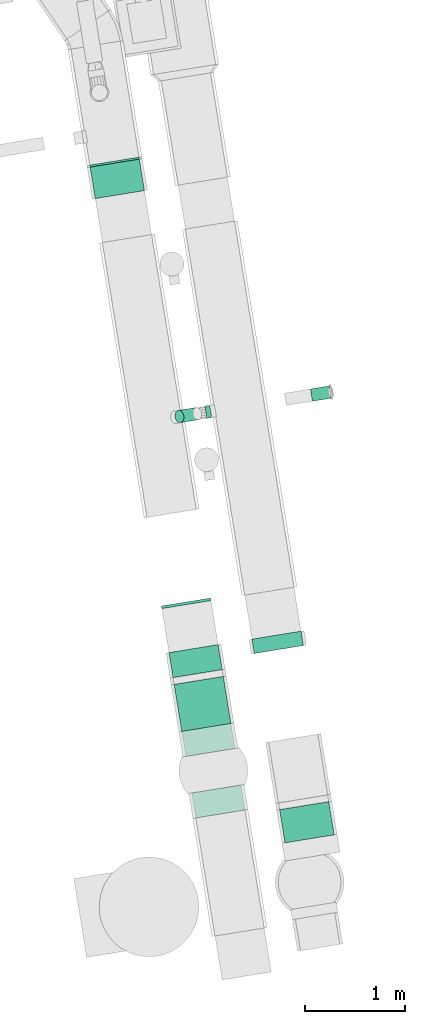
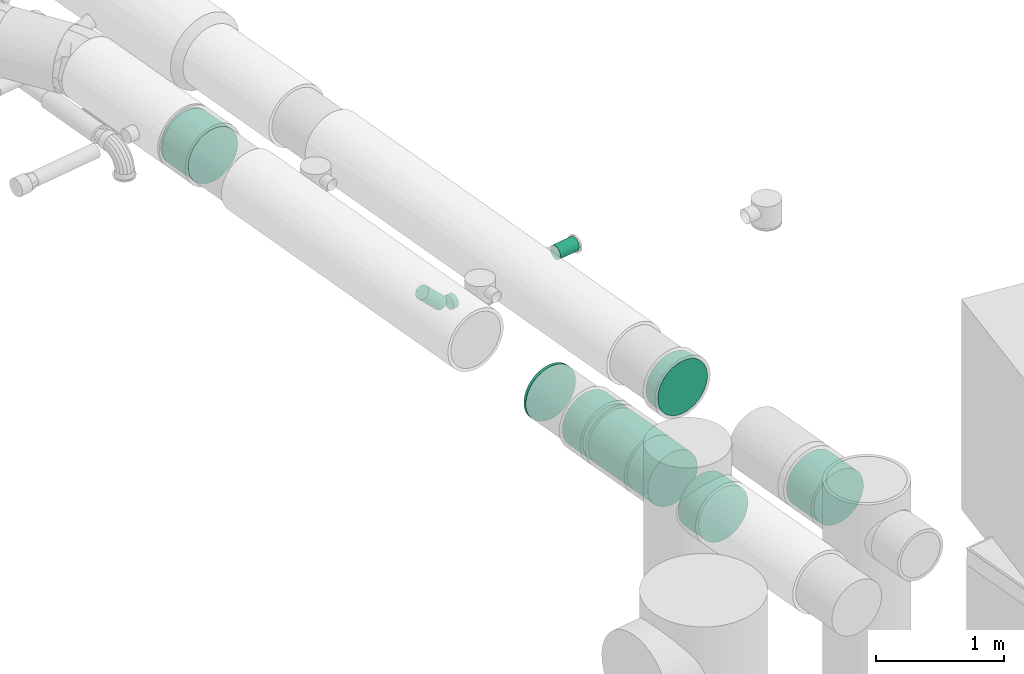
# One storey, part 15 of 39: 9 flow segments, 3 flow fittings.
"""IFC2X3 building model written with IfcOpenShell, lengths in millimetres."""

import ifcopenshell
import ifcopenshell.guid

model = None  # the IFC model being written
_history = None  # IfcOwnerHistory: only IFC2X3 demands one
_inside = {}  # id of a spatial element -> (the spatial element, [elements in it])
_under = {}  # id of a project, library or spatial element -> (it, [spatial elements below it])
_declared = {}  # id of a project -> (the project, [libraries it declares])
_typed = {}  # id of a type object -> (the type object, [elements of that type])
_made_of = {}  # id of a material, layer set ... -> (it, [elements and type objects made of it])


def new_model(schema):
    """Start an empty IFC model of exactly this schema.

    Asked for "IFC4X3", IfcOpenShell would pick the latest addendum, in which some entities
    have other attributes; the version numbers below select the first issue.
    IFC2X3 requires an IfcOwnerHistory on every rooted entity: one is made here for all.
    """
    global model, _history
    if schema == "IFC4X3":
        model = ifcopenshell.file(schema_version=(4, 3, 0, 0))
    else:
        model = ifcopenshell.file(schema=schema)
    _inside.clear()
    _under.clear()
    _declared.clear()
    _typed.clear()
    _made_of.clear()
    _history = None
    if model.schema == "IFC2X3":
        org = make("IfcOrganization", Name="unknown")
        user = make(
            "IfcPersonAndOrganization",
            ThePerson=make("IfcPerson", FamilyName="unknown"),
            TheOrganization=org,
        )
        app = make(
            "IfcApplication",
            ApplicationDeveloper=org,
            Version="unknown",
            ApplicationFullName="unknown",
            ApplicationIdentifier="unknown",
        )
        _history = make(
            "IfcOwnerHistory",
            OwningUser=user,
            OwningApplication=app,
            ChangeAction="ADDED",
            CreationDate=0,
        )
    return model


def make(cls, **values):
    """One entity of the class cls with the attributes given. An attribute that is None is left unset."""
    return model.create_entity(
        cls, **{name: value for name, value in values.items() if value is not None}
    )


def entity(cls, *values):
    """Any entity or typed value of the class cls, its attributes in the order of the schema. None: left unset."""
    e = model.create_entity(cls)
    for i, value in enumerate(values):
        if value is not None:
            e[i] = value
    return e


def rooted(cls, **values):
    """An entity with a GlobalId (a new one), such as an element, a storey or a relation."""
    return make(cls, GlobalId=ifcopenshell.guid.new(), OwnerHistory=_history, **values)


def si_unit(unit_type, name, prefix=None):
    """IfcSIUnit, for example si_unit("LENGTHUNIT", "METRE", prefix="MILLI")."""
    return make("IfcSIUnit", UnitType=unit_type, Prefix=prefix, Name=name)


def converted_unit(unit_type, name, factor, base, dimensions=None, offset=None):
    """IfcConversionBasedUnit, such as the inch: factor (a typed value) times the base unit."""
    return make(
        "IfcConversionBasedUnit"
        if offset is None
        else "IfcConversionBasedUnitWithOffset",
        ConversionOffset=offset,
        Dimensions=None
        if dimensions is None
        else entity("IfcDimensionalExponents", *dimensions),
        UnitType=unit_type,
        Name=name,
        ConversionFactor=make(
            "IfcMeasureWithUnit", ValueComponent=factor, UnitComponent=base
        ),
    )


def derived_unit(unit_type, elements):
    """IfcDerivedUnit: a product of units, each with its exponent."""
    return make(
        "IfcDerivedUnit",
        Elements=[
            make("IfcDerivedUnitElement", Unit=unit, Exponent=power)
            for unit, power in elements
        ],
        UnitType=unit_type,
    )


def assignment(units):
    """IfcUnitAssignment: the units of a project."""
    return None if units is None else make("IfcUnitAssignment", Units=units)


def point(xyz):
    """IfcCartesianPoint."""
    return None if xyz is None else make("IfcCartesianPoint", Coordinates=xyz)


def direction(xyz):
    """IfcDirection."""
    return None if xyz is None else make("IfcDirection", DirectionRatios=xyz)


def frame(location, z_axis=None, x_axis=None):
    """IfcAxis2Placement3D, a coordinate frame: its origin and axes. An axis left out is left unset."""
    return make(
        "IfcAxis2Placement3D",
        Location=point(location),
        Axis=direction(z_axis),
        RefDirection=direction(x_axis),
    )


def frame_2d(location, x_axis=None):
    """IfcAxis2Placement2D, a coordinate frame in the plane: its origin and x axis."""
    return make(
        "IfcAxis2Placement2D", Location=point(location), RefDirection=direction(x_axis)
    )


def origin():
    """The frame at (0, 0, 0) with its axes left unset."""
    return frame((0.0, 0.0, 0.0))


def origin_with_axes():
    """The frame at (0, 0, 0) with the z axis (0, 0, 1) and the x axis (1, 0, 0) written out."""
    return frame((0.0, 0.0, 0.0), z_axis=(0.0, 0.0, 1.0), x_axis=(1.0, 0.0, 0.0))


def origin_2d_with_axis():
    """The frame at (0, 0) in the plane with the x axis (1, 0) written out."""
    return frame_2d((0.0, 0.0), x_axis=(1.0, 0.0))


def place(relative_to, where):
    """IfcLocalPlacement: puts the frame where relative to a parent placement (None: the world)."""
    return make(
        "IfcLocalPlacement", PlacementRelTo=relative_to, RelativePlacement=where
    )


def context(
    kind, dimensions, precision=None, world=None, true_north=None, identifier=None
):
    """IfcGeometricRepresentationContext, for example the 3D "Model" context."""
    return make(
        "IfcGeometricRepresentationContext",
        ContextIdentifier=identifier,
        ContextType=kind,
        CoordinateSpaceDimension=dimensions,
        Precision=precision,
        WorldCoordinateSystem=world,
        TrueNorth=true_north,
    )


def subcontext(parent, identifier, kind, view, scale=None):
    """IfcGeometricRepresentationSubContext, for example "Body" below "Model"."""
    return make(
        "IfcGeometricRepresentationSubContext",
        ContextIdentifier=identifier,
        ContextType=kind,
        ParentContext=parent,
        TargetScale=scale,
        TargetView=view,
    )


def project(units=None, contexts=None):
    """IfcProject with its units and contexts."""
    return rooted(
        "IfcProject",
        Name="project",
        RepresentationContexts=contexts,
        UnitsInContext=assignment(units),
    )


def spatial(cls, under=None, at=None, **own):
    """A site, building, storey or space (cls), placed at a placement, below another one or the project."""
    s = rooted(cls, ObjectPlacement=at, **own)
    if under is not None:
        _under.setdefault(under.id(), (under, []))[1].append(s)
    return s


def profile(cls, at=None, kind="AREA", **sizes):
    """A parametric profile (cls). Its sizes go by their IFC names, for example OverallWidth=200.0."""
    return make(cls, ProfileType=kind, Position=at, **sizes)


def circle(**sizes):
    """IfcCircleProfileDef."""
    return profile("IfcCircleProfileDef", **sizes)


def extrude(swept, where, along, depth):
    """IfcExtrudedAreaSolid: the profile swept, set in the frame where, extruded along a direction by depth."""
    return make(
        "IfcExtrudedAreaSolid",
        SweptArea=swept,
        Position=where,
        ExtrudedDirection=direction(along),
        Depth=depth,
    )


def faces_of(points, faces, orient=None, outer=None):
    """IfcFace entities. A face is a list of loops; a loop is a list of indices into points, from 0.

    orient and outer hold one flag for each loop. By default every Orientation is true, the
    first loop of a face is its IfcFaceOuterBound and the others are IfcFaceBound.
    """
    made = []
    for i, loops in enumerate(faces):
        bounds = []
        for j, loop in enumerate(loops):
            is_outer = j == 0 if outer is None else outer[i][j]
            bounds.append(
                make(
                    "IfcFaceOuterBound" if is_outer else "IfcFaceBound",
                    Bound=make("IfcPolyLoop", Polygon=[points[k] for k in loop]),
                    Orientation=True if orient is None else orient[i][j],
                )
            )
        made.append(make("IfcFace", Bounds=bounds))
    return made


def faceted_brep(points, faces, orient=None, outer=None, voids=None):
    """IfcFacetedBrep: a solid bounded by flat faces; with voids (closed shells), ...WithVoids."""
    shared = [point(p) for p in points]
    hull = make("IfcClosedShell", CfsFaces=faces_of(shared, faces, orient, outer))
    if voids is None:
        return make("IfcFacetedBrep", Outer=hull)
    return make(
        "IfcFacetedBrepWithVoids",
        Outer=hull,
        Voids=[
            make(cls, CfsFaces=faces_of(shared, fs, o, b)) for cls, fs, o, b in voids
        ],
    )


def shape(context_of_items, identifier, shape_type, items):
    """IfcShapeRepresentation: the items that make up one representation, for example the "Body"."""
    return make(
        "IfcShapeRepresentation",
        ContextOfItems=context_of_items,
        RepresentationIdentifier=identifier,
        RepresentationType=shape_type,
        Items=items,
    )


def source(mapping_origin, context_of_items, identifier, shape_type, items):
    """IfcRepresentationMap: a shape defined once, which mapped items show again and again."""
    return make(
        "IfcRepresentationMap",
        MappingOrigin=mapping_origin,
        MappedRepresentation=shape(context_of_items, identifier, shape_type, items),
    )


def transform(
    local_origin,
    x_axis=None,
    y_axis=None,
    z_axis=None,
    scale=None,
    scale2=None,
    scale3=None,
    uniform=True,
):
    """IfcCartesianTransformationOperator3D, or its non-uniform kind. x_axis, y_axis, z_axis: its Axis1, 2, 3."""
    if uniform:
        return make(
            "IfcCartesianTransformationOperator3D",
            Axis1=direction(x_axis),
            Axis2=direction(y_axis),
            LocalOrigin=point(local_origin),
            Scale=scale,
            Axis3=direction(z_axis),
        )
    return make(
        "IfcCartesianTransformationOperator3DnonUniform",
        Axis1=direction(x_axis),
        Axis2=direction(y_axis),
        LocalOrigin=point(local_origin),
        Scale=scale,
        Axis3=direction(z_axis),
        Scale2=scale2,
        Scale3=scale3,
    )


def mapped(mapping_source, mapping_target):
    """IfcMappedItem: shows the shape of a source again, moved by a transform."""
    return make(
        "IfcMappedItem", MappingSource=mapping_source, MappingTarget=mapping_target
    )


def material(Name=None, Category=None):
    """IfcMaterial."""
    return make("IfcMaterial", Name=Name, Category=Category)


def made_of(thing, what):
    """Note that an element or type object is made of a material, layer set ...; save() writes the relation."""
    if what is not None:
        _made_of.setdefault(what.id(), (what, []))[1].append(thing)
    return thing


def type_object(cls, material=None, **own):
    """A type object (cls), such as IfcWallType, which elements share."""
    return made_of(rooted(cls, **own), material)


def element(
    cls,
    number,
    at=None,
    inside=None,
    cuts=None,
    type_object=None,
    material=None,
    context=None,
    identifier="Body",
    shape_type=None,
    held_by="IfcProductDefinitionShape",
    body=None,
    shapes=None,
    **own,
):
    """One element of the class cls, such as IfcWall. Its Tag is "e" and its number.

    at: its placement. inside: the storey or other place that contains it. cuts: it is an
    opening in that element (IfcRelVoidsElement). A single representation is given by context,
    identifier, shape_type and body (its items); several are given by shapes. held_by: the class
    of the entity that holds the representations. save() writes the other relations.
    """
    e = rooted(cls, Tag="e%d" % number, ObjectPlacement=at, **own)
    if body is not None:
        shapes = [shape(context, identifier, shape_type, body)]
    if shapes is not None:
        e.Representation = make(held_by, Representations=shapes)
    if inside is not None:
        _inside.setdefault(inside.id(), (inside, []))[1].append(e)
    if cuts is not None:
        rooted(
            "IfcRelVoidsElement", RelatingBuildingElement=cuts, RelatedOpeningElement=e
        )
    if type_object is not None:
        _typed.setdefault(type_object.id(), (type_object, []))[1].append(e)
    return made_of(e, material)


def aggregate(whole, parts):
    """IfcRelAggregates: a whole, such as a stair, and the parts it consists of."""
    return rooted("IfcRelAggregates", RelatingObject=whole, RelatedObjects=parts)


def save(model, path):
    """Write the relations noted so far, then the file.

    IfcRelAggregates (storeys below a building ...), IfcRelContainedInSpatialStructure (elements
    in a storey), IfcRelDefinesByType, IfcRelAssociatesMaterial and IfcRelDeclares: one each for
    every whole, place, type object, material and project.
    """
    for whole, parts in _under.values():
        aggregate(whole, parts)
    for where, things in _inside.values():
        rooted(
            "IfcRelContainedInSpatialStructure",
            RelatedElements=things,
            RelatingStructure=where,
        )
    for kind, things in _typed.values():
        rooted("IfcRelDefinesByType", RelatedObjects=things, RelatingType=kind)
    for what, things in _made_of.values():
        rooted("IfcRelAssociatesMaterial", RelatedObjects=things, RelatingMaterial=what)
    for by, libraries in _declared.values():
        rooted("IfcRelDeclares", RelatingContext=by, RelatedDefinitions=libraries)
    model.write(path)


model = new_model("IFC2X3")

# Units and contexts
plan_context = context("Plan", 3, precision=1e-05, world=origin_with_axes())
model_context = context("Model", 3, precision=0.01, world=origin(), true_north=direction((6.12323399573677e-17, 1.0)))
body_context = subcontext(model_context, "Body", "Model", "MODEL_VIEW")
ifc_project = project(units=[converted_unit("PLANEANGLEUNIT", "DEGREE", entity("IfcPositiveLengthMeasure", 0.0174532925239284), si_unit("PLANEANGLEUNIT", "RADIAN"), dimensions=[0, 0, 0, 0, 0, 0, 0]), si_unit("AREAUNIT", "SQUARE_METRE"), si_unit("LENGTHUNIT", "METRE", prefix="MILLI"), si_unit("MASSUNIT", "GRAM", prefix="KILO"), si_unit("POWERUNIT", "WATT"), si_unit("PRESSUREUNIT", "PASCAL", prefix="KILO"), si_unit("FORCEUNIT", "NEWTON", prefix="KILO"), si_unit("ELECTRICVOLTAGEUNIT", "VOLT"), si_unit("ELECTRICCURRENTUNIT", "AMPERE"), si_unit("THERMODYNAMICTEMPERATUREUNIT", "DEGREE_CELSIUS"), si_unit("TIMEUNIT", "SECOND"), si_unit("VOLUMEUNIT", "CUBIC_METRE"), derived_unit("LINEARVELOCITYUNIT", [(si_unit("LENGTHUNIT", "METRE"), 1), (si_unit("TIMEUNIT", "SECOND"), -1)]), derived_unit("VOLUMETRICFLOWRATEUNIT", [(si_unit("VOLUMEUNIT", "CUBIC_METRE"), 1), (si_unit("TIMEUNIT", "SECOND"), -1)]), derived_unit("THERMALTRANSMITTANCEUNIT", [(si_unit("POWERUNIT", "WATT"), 1), (si_unit("THERMODYNAMICTEMPERATUREUNIT", "KELVIN"), -1), (si_unit("AREAUNIT", "SQUARE_METRE"), -1)]), derived_unit("SOUNDPRESSUREUNIT", [(si_unit("PRESSUREUNIT", "PASCAL"), 1)])], contexts=[model_context, plan_context])

# Site, building, storey
site_placement = place(None, frame((-0.00071070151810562, 0.00438415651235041, 0.0), z_axis=(0.0, 0.0, 1.0), x_axis=(-0.160236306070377, 0.987078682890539, 0.0)))
site = spatial("IfcSite", under=ifc_project, at=site_placement, Name="Default", CompositionType="ELEMENT")
building_placement = place(site_placement, origin_with_axes())
building = spatial("IfcBuilding", under=site, at=building_placement, CompositionType="ELEMENT")
storey_placement = place(building_placement, frame((0.0, 0.0, 58999.9999999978), z_axis=(0.0, 0.0, 1.0), x_axis=(1.0, 0.0, 0.0)))
storey = spatial("IfcBuildingStorey", under=building, at=storey_placement, Name="Nivå F", CompositionType="ELEMENT", Elevation=58999.9999999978)

# Flow fittings
ifc_material = material(Name="<Unnamed>")
duct_fitting_type_1 = type_object("IfcDuctFittingType", Name="magicirc_tapoutlet_1:magicirc_tapoutlet_001", PredefinedType="NOTDEFINED", material=ifc_material)
shared_shape_1 = source(origin(), body_context, "Body", "Brep", [
    faceted_brep([(-129.458321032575, 0.0, -250.0), (-129.458321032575, -55.6302334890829, -243.731978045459), (-129.458321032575, -108.470934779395, -225.242216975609), (-129.458321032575, -155.87245046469, -195.457870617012), (-129.458321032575, -195.457870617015, -155.872450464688), (-129.458321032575, -225.242216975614, -108.470934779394), (-129.458321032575, -243.731978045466, -55.6302334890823), (-129.458321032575, -250.0, 0.0), (-129.458321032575, -243.731978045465, 55.6302334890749), (-129.458321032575, -225.242216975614, 108.470934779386), (-129.458321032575, -195.457870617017, 155.87245046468), (-129.458321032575, -155.872450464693, 195.457870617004), (-129.458321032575, -108.470934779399, 225.242216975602), (-129.458321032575, -55.6302334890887, 243.731978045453), (-129.458321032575, 0.0, 250.0), (-129.458321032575, 55.6302334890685, 243.731978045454), (-129.458321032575, 108.470934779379, 225.242216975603), (-129.458321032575, 155.872450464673, 195.457870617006), (-129.458321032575, 195.457870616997, 155.872450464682), (-129.458321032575, 225.242216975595, 108.470934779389), (-129.458321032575, 243.731978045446, 55.6302334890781), (-129.458321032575, 250.0, 0.0), (-129.458321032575, 243.731978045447, -55.6302334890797), (-129.458321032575, 225.242216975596, -108.47093477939), (-129.458321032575, 195.457870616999, -155.872450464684), (-129.458321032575, 155.872450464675, -195.457870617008), (-129.458321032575, 108.470934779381, -225.242216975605), (-129.458321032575, 55.6302334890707, -243.731978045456), (0.0, 0.0, 250.0), (125.0, 0.0, 250.0), (125.0, 55.6302334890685, 243.731978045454), (0.0, 55.6302334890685, 243.731978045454), (125.0, 108.470934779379, 225.242216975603), (0.0, 108.470934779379, 225.242216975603), (125.0, 155.872450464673, 195.457870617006), (0.0, 155.872450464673, 195.457870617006), (125.0, 195.457870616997, 155.872450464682), (0.0, 195.457870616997, 155.872450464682), (125.0, 225.242216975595, 108.470934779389), (0.0, 225.242216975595, 108.470934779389), (125.0, 243.731978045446, 55.6302334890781), (0.0, 243.731978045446, 55.6302334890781), (125.0, 250.0, 0.0), (0.0, 250.0, 0.0), (125.0, 243.731978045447, -55.6302334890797), (0.0, 243.731978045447, -55.6302334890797), (0.0, 225.242216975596, -108.47093477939), (125.0, 225.242216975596, -108.47093477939), (125.0, 195.457870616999, -155.872450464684), (0.0, 195.457870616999, -155.872450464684), (125.0, 155.872450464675, -195.457870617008), (0.0, 155.872450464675, -195.457870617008), (125.0, 108.470934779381, -225.242216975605), (0.0, 108.470934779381, -225.242216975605), (125.0, 55.6302334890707, -243.731978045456), (0.0, 55.6302334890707, -243.731978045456), (125.0, 0.0, -250.0), (0.0, 0.0, -250.0), (125.0, -55.6302334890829, -243.731978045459), (0.0, -55.6302334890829, -243.731978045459), (125.0, -108.470934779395, -225.242216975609), (0.0, -108.470934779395, -225.242216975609), (125.0, -155.87245046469, -195.457870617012), (0.0, -155.87245046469, -195.457870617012), (125.0, -195.457870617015, -155.872450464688), (0.0, -195.457870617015, -155.872450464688), (125.0, -225.242216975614, -108.470934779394), (0.0, -225.242216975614, -108.470934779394), (125.0, -243.731978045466, -55.6302334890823), (0.0, -243.731978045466, -55.6302334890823), (125.0, -250.0, 0.0), (0.0, -250.0, 0.0), (125.0, -243.731978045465, 55.6302334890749), (0.0, -243.731978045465, 55.6302334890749), (125.0, -225.242216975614, 108.470934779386), (0.0, -225.242216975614, 108.470934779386), (125.0, -195.457870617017, 155.87245046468), (0.0, -195.457870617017, 155.87245046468), (125.0, -155.872450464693, 195.457870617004), (0.0, -155.872450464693, 195.457870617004), (125.0, -108.470934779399, 225.242216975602), (0.0, -108.470934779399, 225.242216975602), (125.0, -55.6302334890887, 243.731978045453), (0.0, -55.6302334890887, 243.731978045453)], [[[0, 1, 2, 3, 4, 5, 6, 7, 8, 9, 10, 11, 12, 13, 14, 15, 16, 17, 18, 19, 20, 21, 22, 23, 24, 25, 26, 27]], [[15, 14, 28, 29, 30, 31]], [[16, 15, 31, 30, 32, 33]], [[17, 16, 33, 32, 34, 35]], [[35, 34, 36, 37, 18, 17]], [[19, 18, 37, 36, 38, 39]], [[20, 19, 39, 38, 40, 41]], [[21, 20, 41, 40, 42, 43]], [[21, 43, 42, 44, 45, 22]], [[46, 47, 48, 49, 24, 23]], [[22, 45, 44, 47, 46, 23]], [[49, 48, 50, 51, 25, 24]], [[26, 25, 51, 50, 52, 53]], [[27, 26, 53, 52, 54, 55]], [[0, 27, 55, 54, 56, 57]], [[57, 56, 58, 59, 1, 0]], [[59, 58, 60, 61, 2, 1]], [[3, 2, 61, 60, 62, 63]], [[63, 62, 64, 65, 4, 3]], [[5, 4, 65, 64, 66, 67]], [[6, 5, 67, 66, 68, 69]], [[7, 6, 69, 68, 70, 71]], [[8, 7, 71, 70, 72, 73]], [[9, 8, 73, 72, 74, 75]], [[10, 9, 75, 74, 76, 77]], [[77, 76, 78, 79, 11, 10]], [[12, 11, 79, 78, 80, 81]], [[13, 12, 81, 80, 82, 83]], [[14, 13, 83, 82, 29, 28]], [[42, 40, 38, 36, 34, 32, 30, 29, 82, 80, 78, 76, 74, 72, 70, 68, 66, 64, 62, 60, 58, 56, 54, 52, 50, 48, 47, 44]]]),
    faceted_brep([(125.0, 0.0, -250.0), (125.0, 55.6302334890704, -243.731978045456), (125.0, 108.470934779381, -225.242216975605), (125.0, 155.872450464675, -195.457870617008), (125.0, 195.457870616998, -155.872450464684), (125.0, 225.242216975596, -108.47093477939), (125.0, 243.731978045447, -55.6302334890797), (125.0, 250.0, 0.0), (125.0, 243.731978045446, 55.6302334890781), (125.0, 225.242216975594, 108.470934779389), (125.0, 195.457870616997, 155.872450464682), (125.0, 155.872450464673, 195.457870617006), (125.0, 108.470934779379, 225.242216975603), (125.0, 55.6302334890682, 243.731978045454), (125.0, 0.0, 250.0), (125.0, -55.630233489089, 243.731978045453), (125.0, -108.4709347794, 225.242216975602), (125.0, -155.872450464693, 195.457870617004), (125.0, -195.457870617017, 155.87245046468), (125.0, -225.242216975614, 108.470934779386), (125.0, -243.731978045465, 55.6302334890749), (125.0, -250.0, 0.0), (125.0, -243.731978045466, -55.6302334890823), (125.0, -225.242216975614, -108.470934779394), (125.0, -195.457870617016, -155.872450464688), (125.0, -155.872450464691, -195.457870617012), (125.0, -108.470934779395, -225.242216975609), (125.0, -55.6302334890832, -243.731978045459), (0.0, 55.6302334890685, 243.731978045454), (-129.458321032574, 55.6302334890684, 243.731978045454), (-129.458321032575, 0.0, 250.0), (0.0, 0.0, 250.0), (0.0, 108.470934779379, 225.242216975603), (-129.458321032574, 108.470934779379, 225.242216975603), (0.0, 155.872450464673, 195.457870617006), (-129.458321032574, 155.872450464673, 195.457870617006), (0.0, 195.457870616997, 155.872450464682), (-129.458321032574, 195.457870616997, 155.872450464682), (0.0, 225.242216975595, 108.470934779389), (-129.458321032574, 225.242216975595, 108.470934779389), (0.0, 243.731978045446, 55.6302334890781), (-129.458321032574, 243.731978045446, 55.6302334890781), (0.0, 250.0, 0.0), (-129.458321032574, 250.0, 0.0), (0.0, 243.731978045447, -55.6302334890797), (-129.458321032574, 243.731978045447, -55.6302334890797), (0.0, 195.457870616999, -155.872450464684), (-129.458321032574, 195.457870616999, -155.872450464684), (-129.458321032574, 225.242216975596, -108.47093477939), (0.0, 225.242216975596, -108.47093477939), (0.0, 155.872450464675, -195.457870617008), (-129.458321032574, 155.872450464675, -195.457870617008), (0.0, 108.470934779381, -225.242216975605), (-129.458321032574, 108.470934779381, -225.242216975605), (0.0, 55.6302334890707, -243.731978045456), (-129.458321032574, 55.6302334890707, -243.731978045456), (0.0, 0.0, -250.0), (-129.458321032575, 0.0, -250.0), (0.0, -55.6302334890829, -243.731978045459), (-129.458321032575, -55.630233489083, -243.731978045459), (0.0, -108.470934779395, -225.242216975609), (-129.458321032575, -108.470934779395, -225.242216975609), (0.0, -155.87245046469, -195.457870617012), (-129.458321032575, -155.87245046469, -195.457870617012), (0.0, -195.457870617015, -155.872450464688), (-129.458321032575, -195.457870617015, -155.872450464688), (0.0, -225.242216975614, -108.470934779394), (-129.458321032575, -225.242216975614, -108.470934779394), (0.0, -243.731978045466, -55.6302334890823), (-129.458321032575, -243.731978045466, -55.6302334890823), (0.0, -250.0, 0.0), (-129.458321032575, -250.0, 0.0), (0.0, -243.731978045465, 55.630233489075), (-129.458321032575, -243.731978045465, 55.6302334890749), (0.0, -225.242216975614, 108.470934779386), (-129.458321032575, -225.242216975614, 108.470934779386), (0.0, -195.457870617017, 155.87245046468), (-129.458321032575, -195.457870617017, 155.87245046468), (0.0, -155.872450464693, 195.457870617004), (-129.458321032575, -155.872450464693, 195.457870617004), (0.0, -108.4709347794, 225.242216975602), (-129.458321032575, -108.4709347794, 225.242216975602), (0.0, -55.6302334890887, 243.731978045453), (-129.458321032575, -55.6302334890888, 243.731978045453)], [[[0, 1, 2, 3, 4, 5, 6, 7, 8, 9, 10, 11, 12, 13, 14, 15, 16, 17, 18, 19, 20, 21, 22, 23, 24, 25, 26, 27]], [[28, 29, 30, 31, 14, 13]], [[32, 33, 29, 28, 13, 12]], [[34, 35, 33, 32, 12, 11]], [[11, 10, 36, 37, 35, 34]], [[38, 39, 37, 36, 10, 9]], [[40, 41, 39, 38, 9, 8]], [[42, 43, 41, 40, 8, 7]], [[42, 7, 6, 44, 45, 43]], [[5, 4, 46, 47, 48, 49]], [[44, 6, 5, 49, 48, 45]], [[4, 3, 50, 51, 47, 46]], [[52, 53, 51, 50, 3, 2]], [[54, 55, 53, 52, 2, 1]], [[56, 57, 55, 54, 1, 0]], [[0, 27, 58, 59, 57, 56]], [[27, 26, 60, 61, 59, 58]], [[62, 63, 61, 60, 26, 25]], [[25, 24, 64, 65, 63, 62]], [[66, 67, 65, 64, 24, 23]], [[68, 69, 67, 66, 23, 22]], [[70, 71, 69, 68, 22, 21]], [[72, 73, 71, 70, 21, 20]], [[74, 75, 73, 72, 20, 19]], [[76, 77, 75, 74, 19, 18]], [[18, 17, 78, 79, 77, 76]], [[80, 81, 79, 78, 17, 16]], [[82, 83, 81, 80, 16, 15]], [[31, 30, 83, 82, 15, 14]], [[57, 59, 61, 63, 65, 67, 69, 71, 73, 75, 77, 79, 81, 83, 30, 29, 33, 35, 37, 39, 41, 43, 45, 48, 47, 51, 53, 55]]]),
    faceted_brep([(-129.458321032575, 0.0, -250.0), (-129.458321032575, -55.6302334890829, -243.731978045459), (-129.458321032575, -108.470934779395, -225.242216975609), (-129.458321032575, -155.87245046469, -195.457870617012), (-129.458321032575, -195.457870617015, -155.872450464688), (-129.458321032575, -225.242216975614, -108.470934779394), (-129.458321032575, -243.731978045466, -55.6302334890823), (-129.458321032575, -250.0, 0.0), (-129.458321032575, -243.731978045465, 55.6302334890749), (-129.458321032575, -225.242216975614, 108.470934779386), (-129.458321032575, -195.457870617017, 155.87245046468), (-129.458321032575, -155.872450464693, 195.457870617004), (-129.458321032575, -108.470934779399, 225.242216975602), (-129.458321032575, -55.6302334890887, 243.731978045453), (-129.458321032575, 0.0, 250.0), (-129.458321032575, 55.6302334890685, 243.731978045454), (-129.458321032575, 108.470934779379, 225.242216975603), (-129.458321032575, 155.872450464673, 195.457870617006), (-129.458321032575, 195.457870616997, 155.872450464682), (-129.458321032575, 225.242216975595, 108.470934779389), (-129.458321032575, 243.731978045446, 55.6302334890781), (-129.458321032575, 250.0, 0.0), (-129.458321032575, 243.731978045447, -55.6302334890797), (-129.458321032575, 225.242216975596, -108.47093477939), (-129.458321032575, 195.457870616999, -155.872450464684), (-129.458321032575, 155.872450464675, -195.457870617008), (-129.458321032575, 108.470934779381, -225.242216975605), (-129.458321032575, 55.6302334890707, -243.731978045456), (0.0, 0.0, 250.0), (125.0, 0.0, 250.0), (125.0, 55.6302334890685, 243.731978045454), (0.0, 55.6302334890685, 243.731978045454), (125.0, 108.470934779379, 225.242216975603), (0.0, 108.470934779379, 225.242216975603), (125.0, 155.872450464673, 195.457870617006), (0.0, 155.872450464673, 195.457870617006), (125.0, 195.457870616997, 155.872450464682), (0.0, 195.457870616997, 155.872450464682), (125.0, 225.242216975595, 108.470934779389), (0.0, 225.242216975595, 108.470934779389), (125.0, 243.731978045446, 55.6302334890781), (0.0, 243.731978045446, 55.6302334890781), (125.0, 250.0, 0.0), (0.0, 250.0, 0.0), (125.0, 243.731978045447, -55.6302334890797), (0.0, 243.731978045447, -55.6302334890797), (0.0, 225.242216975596, -108.47093477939), (125.0, 225.242216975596, -108.47093477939), (125.0, 195.457870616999, -155.872450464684), (0.0, 195.457870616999, -155.872450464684), (125.0, 155.872450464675, -195.457870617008), (0.0, 155.872450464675, -195.457870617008), (125.0, 108.470934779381, -225.242216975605), (0.0, 108.470934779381, -225.242216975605), (125.0, 55.6302334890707, -243.731978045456), (0.0, 55.6302334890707, -243.731978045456), (125.0, 0.0, -250.0), (0.0, 0.0, -250.0), (125.0, -55.6302334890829, -243.731978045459), (0.0, -55.6302334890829, -243.731978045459), (125.0, -108.470934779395, -225.242216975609), (0.0, -108.470934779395, -225.242216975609), (125.0, -155.87245046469, -195.457870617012), (0.0, -155.87245046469, -195.457870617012), (125.0, -195.457870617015, -155.872450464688), (0.0, -195.457870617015, -155.872450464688), (125.0, -225.242216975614, -108.470934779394), (0.0, -225.242216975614, -108.470934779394), (125.0, -243.731978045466, -55.6302334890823), (0.0, -243.731978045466, -55.6302334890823), (125.0, -250.0, 0.0), (0.0, -250.0, 0.0), (125.0, -243.731978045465, 55.6302334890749), (0.0, -243.731978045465, 55.6302334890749), (125.0, -225.242216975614, 108.470934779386), (0.0, -225.242216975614, 108.470934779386), (125.0, -195.457870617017, 155.87245046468), (0.0, -195.457870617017, 155.87245046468), (125.0, -155.872450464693, 195.457870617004), (0.0, -155.872450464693, 195.457870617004), (125.0, -108.470934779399, 225.242216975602), (0.0, -108.470934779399, 225.242216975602), (125.0, -55.6302334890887, 243.731978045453), (0.0, -55.6302334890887, 243.731978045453)], [[[0, 1, 2, 3, 4, 5, 6, 7, 8, 9, 10, 11, 12, 13, 14, 15, 16, 17, 18, 19, 20, 21, 22, 23, 24, 25, 26, 27]], [[15, 14, 28, 29, 30, 31]], [[16, 15, 31, 30, 32, 33]], [[17, 16, 33, 32, 34, 35]], [[35, 34, 36, 37, 18, 17]], [[19, 18, 37, 36, 38, 39]], [[20, 19, 39, 38, 40, 41]], [[21, 20, 41, 40, 42, 43]], [[21, 43, 42, 44, 45, 22]], [[46, 47, 48, 49, 24, 23]], [[22, 45, 44, 47, 46, 23]], [[49, 48, 50, 51, 25, 24]], [[26, 25, 51, 50, 52, 53]], [[27, 26, 53, 52, 54, 55]], [[0, 27, 55, 54, 56, 57]], [[57, 56, 58, 59, 1, 0]], [[59, 58, 60, 61, 2, 1]], [[3, 2, 61, 60, 62, 63]], [[63, 62, 64, 65, 4, 3]], [[5, 4, 65, 64, 66, 67]], [[6, 5, 67, 66, 68, 69]], [[7, 6, 69, 68, 70, 71]], [[8, 7, 71, 70, 72, 73]], [[9, 8, 73, 72, 74, 75]], [[10, 9, 75, 74, 76, 77]], [[77, 76, 78, 79, 11, 10]], [[12, 11, 79, 78, 80, 81]], [[13, 12, 81, 80, 82, 83]], [[14, 13, 83, 82, 29, 28]], [[42, 40, 38, 36, 34, 32, 30, 29, 82, 80, 78, 76, 74, 72, 70, 68, 66, 64, 62, 60, 58, 56, 54, 52, 50, 48, 47, 44]]]),
])
for number, where, z_axis, x_axis, name in (
    (1, (765447.590423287, -502496.834705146, 3130.0), (0.0, -1.0, 0.0), (1.0, 0.0, 0.0), "magicirc_tapoutlet_1:magicirc_tapoutlet_001"),
    (2, (764817.590423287, -502496.834705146, 3130.0), (0.0, 1.0, 0.0), (-1.0, 0.0, 0.0), "magicirc_tapoutlet_1:magicirc_tapoutlet_001"),
):
    element("IfcFlowFitting", number, at=place(storey_placement, frame(where, z_axis=z_axis, x_axis=x_axis)), inside=storey, type_object=duct_fitting_type_1, material=ifc_material, Name=name, ObjectType="magicirc_tapoutlet_1:magicirc_tapoutlet_001", context=body_context, shape_type="MappedRepresentation", body=[
        mapped(shared_shape_1, transform((0.0, 0.0, 0.0), scale=1.0)),
    ])
duct_fitting_type_2 = type_object("IfcDuctFittingType", Name="magicirc_joint_1:magicirc_joint_001", PredefinedType="NOTDEFINED", material=ifc_material)
shared_shape_2 = source(origin(), body_context, "Body", "SweptSolid", [
    extrude(circle(Radius=250.0, at=frame_2d((1.34514652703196e-15, -1.18104226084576e-12), x_axis=(1.0, 0.0))), frame((0.0, 0.0, 0.0), z_axis=(1.0, 0.0, 0.0), x_axis=(0.0, 1.0, 0.0)), (0.0, 0.0, 1.0), 20.0000000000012),
])
flow_fitting_placement = place(storey_placement, frame((771309.369644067, -502496.834705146, 3130.0), z_axis=(0.0, 0.0, 1.0), x_axis=(1.0, 0.0, 0.0)))
element("IfcFlowFitting", 3, at=flow_fitting_placement, inside=storey, type_object=duct_fitting_type_2, material=ifc_material, Name="magicirc_joint_1:magicirc_joint_001", ObjectType="magicirc_joint_1:magicirc_joint_001", context=body_context, shape_type="MappedRepresentation", body=[
    mapped(shared_shape_2, transform((0.0, 0.0, 0.0), scale=1.0)),
])

# Flow segments
duct_segment_type = type_object("IfcDuctSegmentType", Name="Round Duct:KK001T - Spiro kanaler, Forsinket stål", PredefinedType="NOTDEFINED")
flow_segment_1_placement = place(storey_placement, origin_with_axes())
element("IfcFlowSegment", 4, at=flow_segment_1_placement, inside=storey, type_object=duct_segment_type, Name="Round Duct:KK001T - Spiro kanaler, Forsinket stål", ObjectType="Round Duct:KK001T - Spiro kanaler, Forsinket stål", context=body_context, shape_type="SweptSolid", body=[
    extrude(circle(Radius=62.5, at=frame_2d((7.33230990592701e-08, -6.73816002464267e-11), x_axis=(1.0, 0.0))), frame((768695.275149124, -502910.223055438, 2786.61165235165), z_axis=(0.0, 0.707106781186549, 0.707106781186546), x_axis=(-1.0, 2.28069634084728e-09, -2.28069634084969e-09)), (0.0, 0.0, 1.0), 254.210295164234),
])
flow_segment_2_placement = place(storey_placement, origin_with_axes())
element("IfcFlowSegment", 5, at=flow_segment_2_placement, inside=storey, type_object=duct_segment_type, Name="Round Duct:KK001T - Spiro kanaler, Forsinket stål", ObjectType="Round Duct:KK001T - Spiro kanaler, Forsinket stål", context=body_context, shape_type="SweptSolid", body=[
    extrude(circle(Radius=62.5000000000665, at=frame_2d((-5.43616624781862e-07, -4.33146847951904e-11), x_axis=(1.0, 0.0))), frame((768695.275142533, -504262.961689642, 2750.0), z_axis=(5.70062838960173e-09, 1.0, 0.0), x_axis=(-1.0, 5.70062838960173e-09, 0.0)), (0.0, 0.0, 1.0), 190.732137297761),
])
flow_segment_3_placement = place(storey_placement, origin_with_axes())
element("IfcFlowSegment", 6, at=flow_segment_3_placement, inside=storey, type_object=duct_segment_type, Name="Round Duct:KK001T - Spiro kanaler, Forsinket stål", ObjectType="Round Duct:KK001T - Spiro kanaler, Forsinket stål", context=body_context, shape_type="SweptSolid", body=[
    extrude(circle(Radius=250.0, at=frame_2d((0.0, 8.66293703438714e-12), x_axis=(1.0, 0.0))), frame((766821.119644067, -502496.834705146, 3130.0), z_axis=(1.0, 0.0, 0.0), x_axis=(0.0, -1.0, 0.0)), (0.0, 0.0, 1.0), 26.499999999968),
])
flow_segment_4_placement = place(storey_placement, origin_with_axes())
element("IfcFlowSegment", 7, at=flow_segment_4_placement, inside=storey, type_object=duct_segment_type, Name="Round Duct:KK001T - Spiro kanaler, Forsinket stål", ObjectType="Round Duct:KK001T - Spiro kanaler, Forsinket stål", context=body_context, shape_type="SweptSolid", body=[
    extrude(circle(Radius=250.0, at=frame_2d((0.0, 8.66293703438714e-12), x_axis=(1.0, 0.0))), frame((765572.590423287, -502496.834705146, 3130.0), z_axis=(1.0, 0.0, 0.0), x_axis=(0.0, -1.0, 0.0)), (0.0, 0.0, 1.0), 477.499999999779),
])
flow_segment_5_placement = place(storey_placement, origin_with_axes())
element("IfcFlowSegment", 8, at=flow_segment_5_placement, inside=storey, type_object=duct_segment_type, Name="Round Duct:KK001T - Spiro kanaler, Forsinket stål", ObjectType="Round Duct:KK001T - Spiro kanaler, Forsinket stål", context=body_context, shape_type="SweptSolid", body=[
    extrude(circle(Radius=250.0, at=frame_2d((0.0, -8.66293703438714e-12), x_axis=(1.0, 0.0))), frame((764302.98462938, -503340.008615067, 3129.99954147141), z_axis=(1.0, 0.0, 0.0), x_axis=(0.0, -1.0, 0.0)), (0.0, 0.0, 1.0), 337.105793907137),
])
flow_segment_6_placement = place(storey_placement, origin_with_axes())
element("IfcFlowSegment", 9, at=flow_segment_6_placement, inside=storey, type_object=duct_segment_type, Name="Round Duct:KK001T - Spiro kanaler, Forsinket stål", ObjectType="Round Duct:KK001T - Spiro kanaler, Forsinket stål", context=body_context, shape_type="SweptSolid", body=[
    extrude(circle(Radius=250.0, at=frame_2d((0.0, 8.66293703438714e-12), x_axis=(1.0, 0.0))), frame((766120.090423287, -502496.834705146, 3130.0), z_axis=(1.0, 0.0, 0.0), x_axis=(0.0, -1.0, 0.0)), (0.0, 0.0, 1.0), 254.029220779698),
])
flow_segment_7_placement = place(storey_placement, origin_with_axes())
element("IfcFlowSegment", 10, at=flow_segment_7_placement, inside=storey, type_object=duct_segment_type, Name="Round Duct:KK001T - Spiro kanaler, Forsinket stål", ObjectType="Round Duct:KK001T - Spiro kanaler, Forsinket stål", context=body_context, shape_type="SweptSolid", body=[
    extrude(circle(Radius=250.0, at=frame_2d((0.0, 8.66293703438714e-12), x_axis=(1.0, 0.0))), frame((766227.619644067, -503340.008615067, 3129.99954147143), z_axis=(1.0, 0.0, 0.0), x_axis=(0.0, -1.0, 0.0)), (0.0, 0.0, 1.0), 146.499999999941),
])
flow_segment_8_placement = place(storey_placement, origin_with_axes())
element("IfcFlowSegment", 11, at=flow_segment_8_placement, inside=storey, type_object=duct_segment_type, Name="Round Duct:KK001T - Spiro kanaler, Forsinket stål", ObjectType="Round Duct:KK001T - Spiro kanaler, Forsinket stål", context=body_context, shape_type="SweptSolid", body=[
    extrude(circle(Radius=62.5, at=frame_2d((0.0, 8.66293703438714e-12), x_axis=(1.0, 0.0))), frame((768695.275148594, -503048.30993598, 2750.0), z_axis=(1.21375339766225e-08, 1.0, 0.0), x_axis=(-1.0, 1.21375339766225e-08, 0.0)), (0.0, 0.0, 1.0), 49.6985328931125),
])
flow_segment_9_placement = place(storey_placement, origin_with_axes())
element("IfcFlowSegment", 12, at=flow_segment_9_placement, inside=storey, type_object=duct_segment_type, Name="Round Duct:KK001T - Spiro kanaler, Forsinket stål", ObjectType="Round Duct:KK001T - Spiro kanaler, Forsinket stål", context=body_context, shape_type="SweptSolid", body=[
    extrude(circle(Radius=250.0, at=origin_2d_with_axis()), frame((770989.369644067, -502496.834705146, 3130.0), z_axis=(1.0, 0.0, 0.0), x_axis=(0.0, -1.0, 0.0)), (0.0, 0.0, 1.0), 320.000000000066),
])

save(model, "model.ifc")
